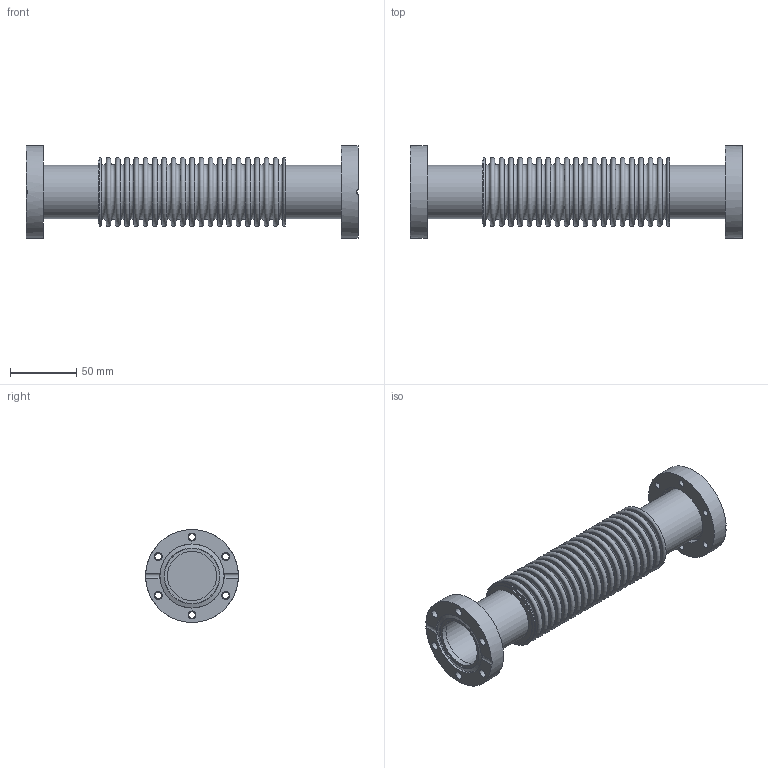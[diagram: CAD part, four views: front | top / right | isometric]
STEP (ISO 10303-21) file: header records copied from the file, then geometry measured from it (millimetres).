
FILE_DESCRIPTION( ( 'Unknown' ), '1' );
FILE_NAME( 'X:/Daten ( aktueller Bestand )/Projekte und Zeichnungen/Solid Edge/STP-Dateien/CF-Teile/7902RU.stp', 'Unknown', ( 'Unknown' ), ( 'Unknown' ), 'PSStep 14.0', 'Unknown', ' ' );
FILE_SCHEMA( ( 'AUTOMOTIVE_DESIGN { 1 0 10303 214 1 1 1 1 }' ) );
Length unit declared in the file: millimetre
Products named in the file (7): 7512R4; 7512R3-1; 7512R4-2; Assem1; 7902R-2; 7902R-1; 7512F4
Assembly tree (7 placements, depth 3):
  Assem1
    7902R-2
    7902R-1  x2
    7512F4
    7512R4
      7512R3-1
      7512R4-2
Bounding box: 250 x 70 x 70 mm (x, y, z)
Volume: 317642.3 mm3; surface area: 101018.8 mm2
Topology: 6 solids, 6 shells, 143 faces, 263 edges, 176 vertices
Faces by surface type: plane 60, torus 41, cylinder 38, cone 4
Full cylindrical faces by diameter (mm): 4.917 x12, 6 x6, 37 x4, 40 x2, 40.2 x2, 45.3 x1, 47.6 x2, 48 x1, 48.2 x1, 48.3 x1, 70 x2
Entity records: 4360 total; most frequent: CARTESIAN_POINT 598, DIRECTION 592, ORIENTED_EDGE 324, AXIS2_PLACEMENT_3D 292, EDGE_LOOP 288, FACE_OUTER_BOUND 209, EDGE_CURVE 162, VERTEX_POINT 154
